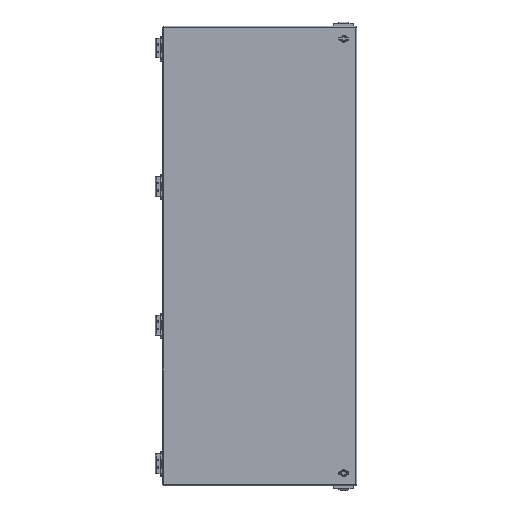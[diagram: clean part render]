
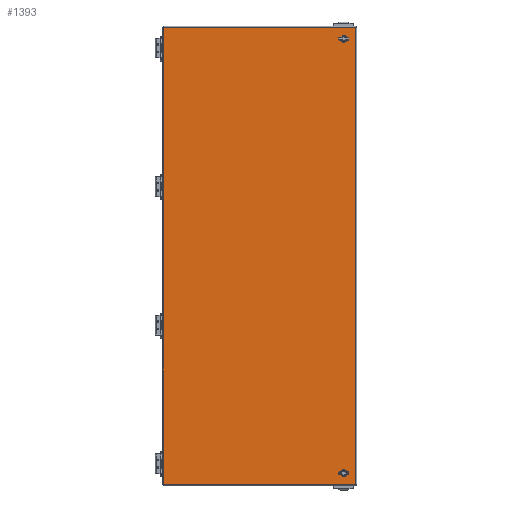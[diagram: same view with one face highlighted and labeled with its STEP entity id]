
A CAD part, top view. The second image highlights one B-rep face of the part: STEP entity #1393.
In plain terms, the highlighted planar face has unit normal (0, 0, 1).
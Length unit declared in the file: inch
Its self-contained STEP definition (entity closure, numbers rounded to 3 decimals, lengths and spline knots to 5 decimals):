
#2=DIRECTION('',(0.,-1.,0.));
#3=VECTOR('',#2,0.094);
#4=CARTESIAN_POINT('',(-15.375,-36.625,0.828));
#5=LINE('',#4,#3);
#6=DIRECTION('',(1.,0.,0.));
#7=VECTOR('',#6,0.092);
#8=CARTESIAN_POINT('',(-15.467,-36.625,0.828));
#9=LINE('',#8,#7);
#10=DIRECTION('',(-1.,0.,0.));
#11=VECTOR('',#10,0.092);
#12=CARTESIAN_POINT('',(-15.375,36.625,0.828));
#13=LINE('',#12,#11);
#14=DIRECTION('',(0.,-1.,0.));
#15=VECTOR('',#14,0.094);
#16=CARTESIAN_POINT('',(-15.375,36.719,0.828));
#17=LINE('',#16,#15);
#18=DIRECTION('',(1.,0.,0.));
#19=VECTOR('',#18,0.39715);
#20=CARTESIAN_POINT('',(13.33642,35.271,0.828));
#21=LINE('',#20,#19);
#22=CARTESIAN_POINT('',(13.535,34.875,0.828));
#23=DIRECTION('',(0.,0.,1.));
#24=DIRECTION('',(-0.448,0.894,0.));
#25=AXIS2_PLACEMENT_3D('',#22,#23,#24);
#27=DIRECTION('',(0.,1.,0.));
#28=VECTOR('',#27,0.39715);
#29=CARTESIAN_POINT('',(13.139,34.67642,0.828));
#30=LINE('',#29,#28);
#31=CARTESIAN_POINT('',(13.535,34.875,0.828));
#32=DIRECTION('',(0.,0.,1.));
#33=DIRECTION('',(-0.894,-0.448,0.));
#34=AXIS2_PLACEMENT_3D('',#31,#32,#33);
#36=DIRECTION('',(-1.,0.,0.));
#37=VECTOR('',#36,0.39715);
#38=CARTESIAN_POINT('',(13.73358,34.479,0.828));
#39=LINE('',#38,#37);
#40=CARTESIAN_POINT('',(13.535,34.875,0.828));
#41=DIRECTION('',(0.,0.,1.));
#42=DIRECTION('',(0.448,-0.894,0.));
#43=AXIS2_PLACEMENT_3D('',#40,#41,#42);
#45=DIRECTION('',(0.,-1.,0.));
#46=VECTOR('',#45,0.39715);
#47=CARTESIAN_POINT('',(13.931,35.07358,0.828));
#48=LINE('',#47,#46);
#49=CARTESIAN_POINT('',(13.535,34.875,0.828));
#50=DIRECTION('',(0.,0.,1.));
#51=DIRECTION('',(0.894,0.448,0.));
#52=AXIS2_PLACEMENT_3D('',#49,#50,#51);
#54=CARTESIAN_POINT('',(13.535,-34.875,0.828));
#55=DIRECTION('',(0.,0.,1.));
#56=DIRECTION('',(-0.894,-0.448,0.));
#57=AXIS2_PLACEMENT_3D('',#54,#55,#56);
#59=DIRECTION('',(-1.,0.,0.));
#60=VECTOR('',#59,0.39715);
#61=CARTESIAN_POINT('',(13.73358,-35.271,0.828));
#62=LINE('',#61,#60);
#63=CARTESIAN_POINT('',(13.535,-34.875,0.828));
#64=DIRECTION('',(0.,0.,1.));
#65=DIRECTION('',(0.448,-0.894,0.));
#66=AXIS2_PLACEMENT_3D('',#63,#64,#65);
#68=DIRECTION('',(0.,-1.,0.));
#69=VECTOR('',#68,0.39715);
#70=CARTESIAN_POINT('',(13.931,-34.67642,0.828));
#71=LINE('',#70,#69);
#72=CARTESIAN_POINT('',(13.535,-34.875,0.828));
#73=DIRECTION('',(0.,0.,1.));
#74=DIRECTION('',(0.894,0.448,0.));
#75=AXIS2_PLACEMENT_3D('',#72,#73,#74);
#77=DIRECTION('',(1.,0.,0.));
#78=VECTOR('',#77,0.39715);
#79=CARTESIAN_POINT('',(13.33642,-34.479,0.828));
#80=LINE('',#79,#78);
#81=CARTESIAN_POINT('',(13.535,-34.875,0.828));
#82=DIRECTION('',(0.,0.,1.));
#83=DIRECTION('',(-0.448,0.894,0.));
#84=AXIS2_PLACEMENT_3D('',#81,#82,#83);
#86=DIRECTION('',(0.,1.,0.));
#87=VECTOR('',#86,0.39715);
#88=CARTESIAN_POINT('',(13.139,-35.07358,0.828));
#89=LINE('',#88,#87);
#90=DIRECTION('',(1.,0.,0.));
#91=VECTOR('',#90,30.844);
#92=CARTESIAN_POINT('',(-15.375,-36.719,0.828));
#93=LINE('',#92,#91);
#134=DIRECTION('',(0.,1.,0.));
#135=VECTOR('',#134,73.438);
#136=CARTESIAN_POINT('',(15.469,-36.719,0.828));
#137=LINE('',#136,#135);
#169=DIRECTION('',(-1.,0.,0.));
#170=VECTOR('',#169,30.844);
#171=CARTESIAN_POINT('',(15.469,36.719,0.828));
#172=LINE('',#171,#170);
#593=DIRECTION('',(0.,-1.,0.));
#594=VECTOR('',#593,73.25);
#595=CARTESIAN_POINT('',(-15.467,36.625,0.828));
#596=LINE('',#595,#594);
#1046=CARTESIAN_POINT('',(-15.375,36.719,0.828));
#1048=VERTEX_POINT('',#1046);
#1050=CARTESIAN_POINT('',(-15.375,-36.719,0.828));
#1052=VERTEX_POINT('',#1050);
#1054=CARTESIAN_POINT('',(15.469,-36.719,0.828));
#1055=CARTESIAN_POINT('',(15.469,36.719,0.828));
#1056=VERTEX_POINT('',#1054);
#1057=VERTEX_POINT('',#1055);
#1079=CARTESIAN_POINT('',(-15.375,36.625,0.828));
#1081=VERTEX_POINT('',#1079);
#1083=CARTESIAN_POINT('',(-15.375,-36.625,0.828));
#1085=VERTEX_POINT('',#1083);
#1098=CARTESIAN_POINT('',(-15.467,-36.625,0.828));
#1099=VERTEX_POINT('',#1098);
#1100=CARTESIAN_POINT('',(-15.467,36.625,0.828));
#1101=VERTEX_POINT('',#1100);
#1238=CARTESIAN_POINT('',(13.33642,35.271,0.828));
#1239=CARTESIAN_POINT('',(13.73358,35.271,0.828));
#1240=VERTEX_POINT('',#1238);
#1241=VERTEX_POINT('',#1239);
#1242=CARTESIAN_POINT('',(13.931,35.07358,0.828));
#1243=VERTEX_POINT('',#1242);
#1244=CARTESIAN_POINT('',(13.931,34.67642,0.828));
#1245=VERTEX_POINT('',#1244);
#1246=CARTESIAN_POINT('',(13.73358,34.479,0.828));
#1247=VERTEX_POINT('',#1246);
#1248=CARTESIAN_POINT('',(13.33642,34.479,0.828));
#1249=VERTEX_POINT('',#1248);
#1250=CARTESIAN_POINT('',(13.139,34.67642,0.828));
#1251=VERTEX_POINT('',#1250);
#1252=CARTESIAN_POINT('',(13.139,35.07358,0.828));
#1253=VERTEX_POINT('',#1252);
#1254=CARTESIAN_POINT('',(13.139,-35.07358,0.828));
#1255=CARTESIAN_POINT('',(13.33642,-35.271,0.828));
#1256=VERTEX_POINT('',#1254);
#1257=VERTEX_POINT('',#1255);
#1258=CARTESIAN_POINT('',(13.139,-34.67642,0.828));
#1259=VERTEX_POINT('',#1258);
#1260=CARTESIAN_POINT('',(13.33642,-34.479,0.828));
#1261=VERTEX_POINT('',#1260);
#1262=CARTESIAN_POINT('',(13.73358,-34.479,0.828));
#1263=VERTEX_POINT('',#1262);
#1264=CARTESIAN_POINT('',(13.931,-34.67642,0.828));
#1265=VERTEX_POINT('',#1264);
#1266=CARTESIAN_POINT('',(13.931,-35.07358,0.828));
#1267=VERTEX_POINT('',#1266);
#1268=CARTESIAN_POINT('',(13.73358,-35.271,0.828));
#1269=VERTEX_POINT('',#1268);
#1334=CARTESIAN_POINT('',(0.,0.,0.828));
#1335=DIRECTION('',(0.,0.,1.));
#1336=DIRECTION('',(1.,0.,0.));
#1337=AXIS2_PLACEMENT_3D('',#1334,#1335,#1336);
#1338=PLANE('',#1337);
#1340=ORIENTED_EDGE('',*,*,#1339,.F.);
#1342=ORIENTED_EDGE('',*,*,#1341,.F.);
#1344=ORIENTED_EDGE('',*,*,#1343,.F.);
#1346=ORIENTED_EDGE('',*,*,#1345,.F.);
#1348=ORIENTED_EDGE('',*,*,#1347,.F.);
#1350=ORIENTED_EDGE('',*,*,#1349,.F.);
#1352=ORIENTED_EDGE('',*,*,#1351,.F.);
#1354=ORIENTED_EDGE('',*,*,#1353,.F.);
#1355=EDGE_LOOP('',(#1340,#1342,#1344,#1346,#1348,#1350,#1352,#1354));
#1356=FACE_OUTER_BOUND('',#1355,.F.);
#1358=ORIENTED_EDGE('',*,*,#1357,.F.);
#1360=ORIENTED_EDGE('',*,*,#1359,.T.);
#1362=ORIENTED_EDGE('',*,*,#1361,.F.);
#1364=ORIENTED_EDGE('',*,*,#1363,.T.);
#1366=ORIENTED_EDGE('',*,*,#1365,.F.);
#1368=ORIENTED_EDGE('',*,*,#1367,.T.);
#1370=ORIENTED_EDGE('',*,*,#1369,.F.);
#1372=ORIENTED_EDGE('',*,*,#1371,.T.);
#1373=EDGE_LOOP('',(#1358,#1360,#1362,#1364,#1366,#1368,#1370,#1372));
#1374=FACE_BOUND('',#1373,.F.);
#1376=ORIENTED_EDGE('',*,*,#1375,.T.);
#1378=ORIENTED_EDGE('',*,*,#1377,.F.);
#1380=ORIENTED_EDGE('',*,*,#1379,.T.);
#1382=ORIENTED_EDGE('',*,*,#1381,.F.);
#1384=ORIENTED_EDGE('',*,*,#1383,.T.);
#1386=ORIENTED_EDGE('',*,*,#1385,.F.);
#1388=ORIENTED_EDGE('',*,*,#1387,.T.);
#1390=ORIENTED_EDGE('',*,*,#1389,.F.);
#1391=EDGE_LOOP('',(#1376,#1378,#1380,#1382,#1384,#1386,#1388,#1390));
#1392=FACE_BOUND('',#1391,.F.);
#1393=ADVANCED_FACE('',(#1356,#1374,#1392),#1338,.T.);
#26=CIRCLE('',#25,0.443);
#35=CIRCLE('',#34,0.443);
#44=CIRCLE('',#43,0.443);
#53=CIRCLE('',#52,0.443);
#58=CIRCLE('',#57,0.443);
#67=CIRCLE('',#66,0.443);
#76=CIRCLE('',#75,0.443);
#85=CIRCLE('',#84,0.443);
#1339=EDGE_CURVE('',#1052,#1056,#93,.T.);
#1341=EDGE_CURVE('',#1085,#1052,#5,.T.);
#1343=EDGE_CURVE('',#1099,#1085,#9,.T.);
#1345=EDGE_CURVE('',#1101,#1099,#596,.T.);
#1347=EDGE_CURVE('',#1081,#1101,#13,.T.);
#1349=EDGE_CURVE('',#1048,#1081,#17,.T.);
#1351=EDGE_CURVE('',#1057,#1048,#172,.T.);
#1353=EDGE_CURVE('',#1056,#1057,#137,.T.);
#1357=EDGE_CURVE('',#1240,#1241,#21,.T.);
#1359=EDGE_CURVE('',#1240,#1253,#26,.T.);
#1361=EDGE_CURVE('',#1251,#1253,#30,.T.);
#1363=EDGE_CURVE('',#1251,#1249,#35,.T.);
#1365=EDGE_CURVE('',#1247,#1249,#39,.T.);
#1367=EDGE_CURVE('',#1247,#1245,#44,.T.);
#1369=EDGE_CURVE('',#1243,#1245,#48,.T.);
#1371=EDGE_CURVE('',#1243,#1241,#53,.T.);
#1375=EDGE_CURVE('',#1256,#1257,#58,.T.);
#1377=EDGE_CURVE('',#1269,#1257,#62,.T.);
#1379=EDGE_CURVE('',#1269,#1267,#67,.T.);
#1381=EDGE_CURVE('',#1265,#1267,#71,.T.);
#1383=EDGE_CURVE('',#1265,#1263,#76,.T.);
#1385=EDGE_CURVE('',#1261,#1263,#80,.T.);
#1387=EDGE_CURVE('',#1261,#1259,#85,.T.);
#1389=EDGE_CURVE('',#1256,#1259,#89,.T.);
